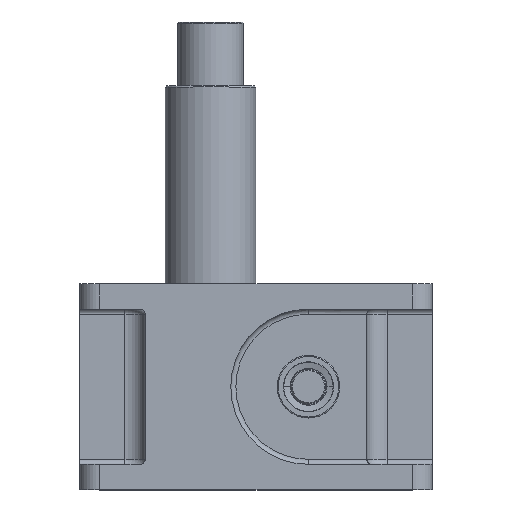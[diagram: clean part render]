
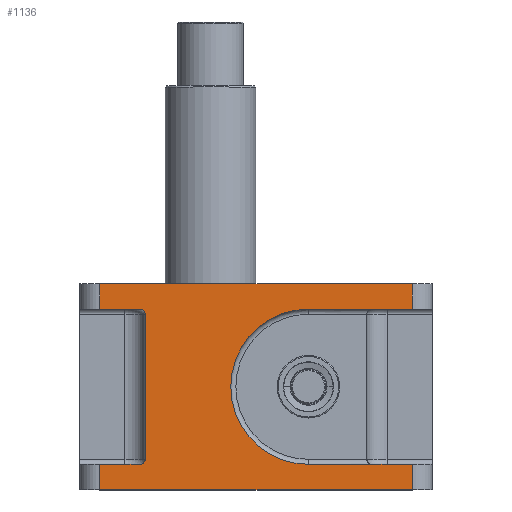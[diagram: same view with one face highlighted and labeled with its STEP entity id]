
A CAD part, top view. The second image highlights one B-rep face of the part: STEP entity #1136.
In plain terms, the highlighted planar face has unit normal (0, 0, 1).
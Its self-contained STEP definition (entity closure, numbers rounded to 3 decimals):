
#920 = ORIENTED_EDGE ( 'NONE', *, *, #1107, .F. ) ;
#1096 = VERTEX_POINT ( 'NONE', #4038 ) ;
#1097 = ORIENTED_EDGE ( 'NONE', *, *, #1098, .F. ) ;
#1098 = EDGE_CURVE ( 'NONE', #1099, #1096, #4037, .T. ) ;
#1099 = VERTEX_POINT ( 'NONE', #4033 ) ;
#1100 = ORIENTED_EDGE ( 'NONE', *, *, #1101, .T. ) ;
#1101 = EDGE_CURVE ( 'NONE', #1099, #1102, #4032, .T. ) ;
#1102 = VERTEX_POINT ( 'NONE', #4027 ) ;
#1103 = ORIENTED_EDGE ( 'NONE', *, *, #1104, .F. ) ;
#1104 = EDGE_CURVE ( 'NONE', #1105, #1102, #4026, .T. ) ;
#1105 = VERTEX_POINT ( 'NONE', #4022 ) ;
#1106 = VERTEX_POINT ( 'NONE', #4021 ) ;
#1107 = EDGE_CURVE ( 'NONE', #1108, #1109, #4020, .T. ) ;
#1108 = VERTEX_POINT ( 'NONE', #4078 ) ;
#1109 = VERTEX_POINT ( 'NONE', #4077 ) ;
#1110 = ORIENTED_EDGE ( 'NONE', *, *, #1111, .T. ) ;
#1111 = EDGE_CURVE ( 'NONE', #1108, #1112, #4076, .T. ) ;
#1112 = VERTEX_POINT ( 'NONE', #4072 ) ;
#1113 = ORIENTED_EDGE ( 'NONE', *, *, #1114, .F. ) ;
#1114 = EDGE_CURVE ( 'NONE', #1115, #1112, #4071, .T. ) ;
#1115 = VERTEX_POINT ( 'NONE', #4067 ) ;
#1116 = ORIENTED_EDGE ( 'NONE', *, *, #1117, .F. ) ;
#1117 = EDGE_CURVE ( 'NONE', #1118, #1115, #4066, .T. ) ;
#1118 = VERTEX_POINT ( 'NONE', #4062 ) ;
#1119 = ORIENTED_EDGE ( 'NONE', *, *, #1120, .T. ) ;
#1120 = EDGE_CURVE ( 'NONE', #1118, #1121, #4061, .T. ) ;
#1121 = VERTEX_POINT ( 'NONE', #4057 ) ;
#1122 = VERTEX_POINT ( 'NONE', #4056 ) ;
#1136 = ADVANCED_FACE ( 'NONE', ( #4099 ), #4098, .F. ) ;
#1137 = EDGE_LOOP ( 'NONE', ( #920, #1110, #1113, #1116, #1119, #1178, #1180, #1097, #1100, #1103, #1164, #1166, #1169, #1172 ) ) ;
#1164 = ORIENTED_EDGE ( 'NONE', *, *, #1165, .T. ) ;
#1165 = EDGE_CURVE ( 'NONE', #1105, #1106, #4172, .T. ) ;
#1166 = ORIENTED_EDGE ( 'NONE', *, *, #1167, .T. ) ;
#1167 = EDGE_CURVE ( 'NONE', #1106, #1168, #4168, .T. ) ;
#1168 = VERTEX_POINT ( 'NONE', #4164 ) ;
#1169 = ORIENTED_EDGE ( 'NONE', *, *, #1170, .F. ) ;
#1170 = EDGE_CURVE ( 'NONE', #1171, #1168, #4163, .T. ) ;
#1171 = VERTEX_POINT ( 'NONE', #4159 ) ;
#1172 = ORIENTED_EDGE ( 'NONE', *, *, #1173, .F. ) ;
#1173 = EDGE_CURVE ( 'NONE', #1109, #1171, #4158, .T. ) ;
#1178 = ORIENTED_EDGE ( 'NONE', *, *, #1179, .T. ) ;
#1179 = EDGE_CURVE ( 'NONE', #1121, #1122, #4204, .T. ) ;
#1180 = ORIENTED_EDGE ( 'NONE', *, *, #1181, .T. ) ;
#1181 = EDGE_CURVE ( 'NONE', #1122, #1096, #4200, .T. ) ;
#4020 = CIRCLE ( 'NONE', #4082, 77. ) ;
#4021 = CARTESIAN_POINT ( 'NONE',  ( -37.404, 0., 48.48 ) ) ;
#4022 = CARTESIAN_POINT ( 'NONE',  ( -37.404, 25., 48.48 ) ) ;
#4023 = DIRECTION ( 'NONE',  ( 1., 0., 0. ) ) ;
#4024 = VECTOR ( 'NONE', #4023, 1000. ) ;
#4025 = CARTESIAN_POINT ( 'NONE',  ( 7.596, 25., 48.48 ) ) ;
#4026 = LINE ( 'NONE', #4025, #4024 ) ;
#4027 = CARTESIAN_POINT ( 'NONE',  ( 2.596, 25., 48.48 ) ) ;
#4028 = DIRECTION ( 'NONE',  ( -1., 0., 0. ) ) ;
#4029 = DIRECTION ( 'NONE',  ( 0., 0., -1. ) ) ;
#4030 = CARTESIAN_POINT ( 'NONE',  ( 2.596, 30., 48.48 ) ) ;
#4031 = AXIS2_PLACEMENT_3D ( 'NONE', #4030, #4029, #4028 ) ;
#4032 = CIRCLE ( 'NONE', #4031, 5. ) ;
#4033 = CARTESIAN_POINT ( 'NONE',  ( 7.596, 30., 48.48 ) ) ;
#4034 = DIRECTION ( 'NONE',  ( 0., 1., 0. ) ) ;
#4035 = VECTOR ( 'NONE', #4034, 1000. ) ;
#4036 = CARTESIAN_POINT ( 'NONE',  ( 7.596, 25., 48.48 ) ) ;
#4037 = LINE ( 'NONE', #4036, #4035 ) ;
#4038 = CARTESIAN_POINT ( 'NONE',  ( 7.596, 174., 48.48 ) ) ;
#4056 = CARTESIAN_POINT ( 'NONE',  ( 2.596, 179., 48.48 ) ) ;
#4057 = CARTESIAN_POINT ( 'NONE',  ( -37.404, 179., 48.48 ) ) ;
#4058 = DIRECTION ( 'NONE',  ( 0., -1., 0. ) ) ;
#4059 = VECTOR ( 'NONE', #4058, 1000. ) ;
#4060 = CARTESIAN_POINT ( 'NONE',  ( -37.404, 204., 48.48 ) ) ;
#4061 = LINE ( 'NONE', #4060, #4059 ) ;
#4062 = CARTESIAN_POINT ( 'NONE',  ( -37.404, 204., 48.48 ) ) ;
#4063 = DIRECTION ( 'NONE',  ( 1., 0., 0. ) ) ;
#4064 = VECTOR ( 'NONE', #4063, 1000. ) ;
#4065 = CARTESIAN_POINT ( 'NONE',  ( 272.596, 204., 48.48 ) ) ;
#4066 = LINE ( 'NONE', #4065, #4064 ) ;
#4067 = CARTESIAN_POINT ( 'NONE',  ( 272.596, 204., 48.48 ) ) ;
#4068 = DIRECTION ( 'NONE',  ( 0., -1., 0. ) ) ;
#4069 = VECTOR ( 'NONE', #4068, 1000. ) ;
#4070 = CARTESIAN_POINT ( 'NONE',  ( 272.596, 204., 48.48 ) ) ;
#4071 = LINE ( 'NONE', #4070, #4069 ) ;
#4072 = CARTESIAN_POINT ( 'NONE',  ( 272.596, 179., 48.48 ) ) ;
#4073 = DIRECTION ( 'NONE',  ( 1., 0., 0. ) ) ;
#4074 = VECTOR ( 'NONE', #4073, 1000. ) ;
#4075 = CARTESIAN_POINT ( 'NONE',  ( 227.596, 179., 48.48 ) ) ;
#4076 = LINE ( 'NONE', #4075, #4074 ) ;
#4077 = CARTESIAN_POINT ( 'NONE',  ( 169.596, 25., 48.48 ) ) ;
#4078 = CARTESIAN_POINT ( 'NONE',  ( 169.596, 179., 48.48 ) ) ;
#4079 = DIRECTION ( 'NONE',  ( 1., 0., 0. ) ) ;
#4080 = DIRECTION ( 'NONE',  ( 0., 0., 1. ) ) ;
#4081 = CARTESIAN_POINT ( 'NONE',  ( 169.596, 102., 48.48 ) ) ;
#4082 = AXIS2_PLACEMENT_3D ( 'NONE', #4081, #4080, #4079 ) ;
#4093 = DIRECTION ( 'NONE',  ( -1., 0., 0. ) ) ;
#4094 = DIRECTION ( 'NONE',  ( 0., 0., -1. ) ) ;
#4095 = AXIS2_PLACEMENT_3D ( 'NONE', #4097, #4094, #4093 ) ;
#4097 = CARTESIAN_POINT ( 'NONE',  ( 272.596, 204., 48.48 ) ) ;
#4098 = PLANE ( 'NONE',  #4095 ) ;
#4099 = FACE_OUTER_BOUND ( 'NONE', #1137, .T. ) ;
#4155 = DIRECTION ( 'NONE',  ( 1., 0., 0. ) ) ;
#4156 = VECTOR ( 'NONE', #4155, 1000. ) ;
#4157 = CARTESIAN_POINT ( 'NONE',  ( 227.596, 25., 48.48 ) ) ;
#4158 = LINE ( 'NONE', #4157, #4156 ) ;
#4159 = CARTESIAN_POINT ( 'NONE',  ( 272.596, 25., 48.48 ) ) ;
#4160 = DIRECTION ( 'NONE',  ( 0., -1., 0. ) ) ;
#4161 = VECTOR ( 'NONE', #4160, 1000. ) ;
#4162 = CARTESIAN_POINT ( 'NONE',  ( 272.596, 204., 48.48 ) ) ;
#4163 = LINE ( 'NONE', #4162, #4161 ) ;
#4164 = CARTESIAN_POINT ( 'NONE',  ( 272.596, 0., 48.48 ) ) ;
#4165 = DIRECTION ( 'NONE',  ( 1., 0., 0. ) ) ;
#4166 = VECTOR ( 'NONE', #4165, 1000. ) ;
#4167 = CARTESIAN_POINT ( 'NONE',  ( 272.596, 0., 48.48 ) ) ;
#4168 = LINE ( 'NONE', #4167, #4166 ) ;
#4169 = DIRECTION ( 'NONE',  ( 0., -1., 0. ) ) ;
#4170 = VECTOR ( 'NONE', #4169, 1000. ) ;
#4171 = CARTESIAN_POINT ( 'NONE',  ( -37.404, 204., 48.48 ) ) ;
#4172 = LINE ( 'NONE', #4171, #4170 ) ;
#4196 = DIRECTION ( 'NONE',  ( -1., 0., 0. ) ) ;
#4197 = DIRECTION ( 'NONE',  ( 0., 0., -1. ) ) ;
#4198 = CARTESIAN_POINT ( 'NONE',  ( 2.596, 174., 48.48 ) ) ;
#4199 = AXIS2_PLACEMENT_3D ( 'NONE', #4198, #4197, #4196 ) ;
#4200 = CIRCLE ( 'NONE', #4199, 5. ) ;
#4201 = DIRECTION ( 'NONE',  ( 1., 0., 0. ) ) ;
#4202 = VECTOR ( 'NONE', #4201, 1000. ) ;
#4203 = CARTESIAN_POINT ( 'NONE',  ( 7.596, 179., 48.48 ) ) ;
#4204 = LINE ( 'NONE', #4203, #4202 ) ;
